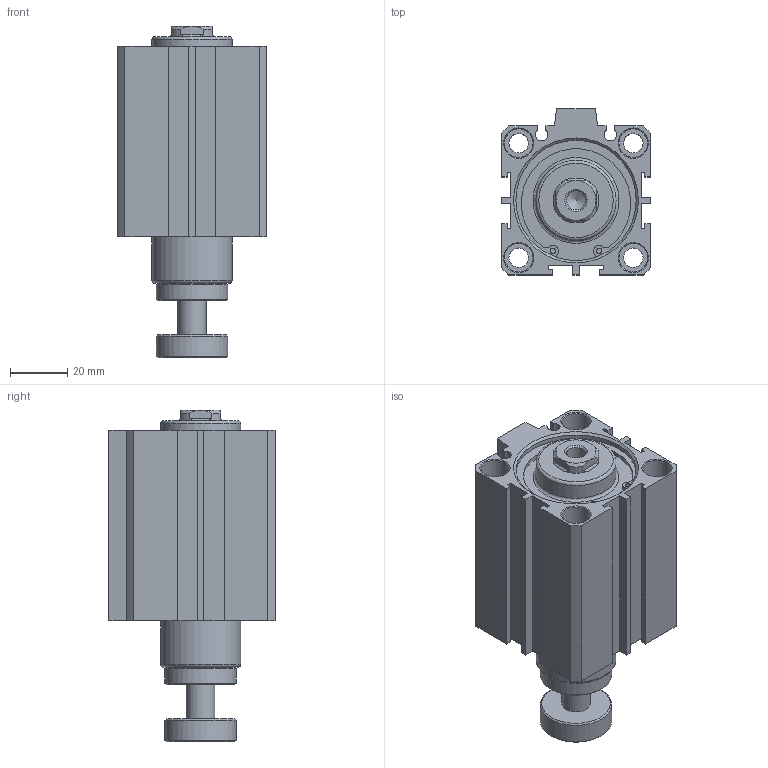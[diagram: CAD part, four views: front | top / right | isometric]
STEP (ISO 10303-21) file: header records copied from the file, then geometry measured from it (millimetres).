
FILE_DESCRIPTION((''),'2;1');
FILE_NAME('I:\3D電子目錄\氣缸\JDAR\JDAR-S\JDAR40-S\JDAR40x30-S.stp','2007-05-05T09:37:16',('662F206'),(''),'Autodesk Inventor 11','Autodesk Inventor 11','');
FILE_SCHEMA(('AUTOMOTIVE_DESIGN { 1 0 10303 214 1 1 1 1 }'));
Length unit declared in the file: millimetre
Products named in the file (3): JDAR40-S; JDAR40; R 形環 42
Assembly tree (3 placements, depth 2):
  JDAR40-S
    JDAR40
    R 形環 42  x2
Bounding box: 52 x 58 x 115.8 mm (x, y, z)
Volume: 172752.3 mm3; surface area: 40176.3 mm2
Topology: 3 solids, 3 shells, 172 faces, 405 edges, 263 vertices
Faces by surface type: plane 92, cylinder 51, cone 23, bspline 4, torus 2
Full cylindrical faces by diameter (mm): 1.9 x4, 2.2 x2, 6.8 x4, 10 x9, 25 x2, 28 x2, 42 x4, 44.5 x2
Entity records: 4475 total; most frequent: CARTESIAN_POINT 858, DIRECTION 758, ORIENTED_EDGE 634, EDGE_CURVE 317, AXIS2_PLACEMENT_3D 287, EDGE_LOOP 248, VERTEX_POINT 237, VECTOR 184
